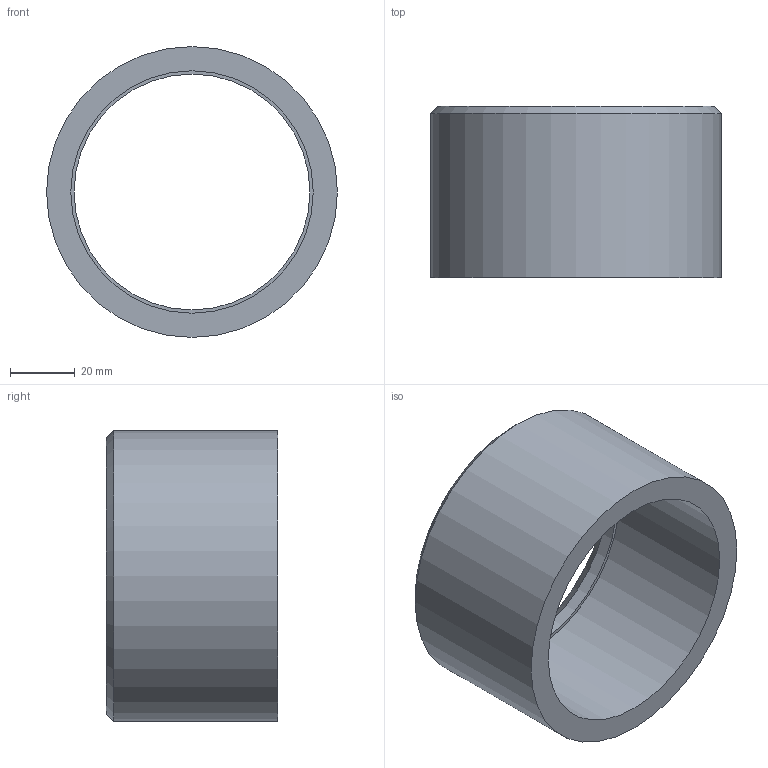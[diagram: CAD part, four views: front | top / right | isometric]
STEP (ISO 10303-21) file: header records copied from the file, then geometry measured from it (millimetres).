
FILE_DESCRIPTION(/* description */ ('PVC riduzione corta incollaggio metrica'),/* implementation_level */ '2;1');
FILE_NAME(/* name */ 'C:\Users\POLYPIPE\Desktop\DATASET INVENTOR\LIBRERIA EFFAST\RACCORDI 3DxWEB\RDR\3D_RDRRCD\3D_RDRRCD090H.stp',/* time_stamp */ '2018-01-19T15:32:42+01:00',/* author */ ('POLYPIPE'),/* organization */ ('Polypipe Italia s.r.l.'),/* preprocessor_version */ 'ST-DEVELOPER v16.1',/* originating_system */ 'Autodesk Inventor 2016',/* authorisation */ '');
FILE_SCHEMA (('CONFIG_CONTROL_DESIGN'));
Length unit declared in the file: millimetre
Products named in the file (1): 3D_RDRRCD
Bounding box: 90 x 53 x 90 mm (x, y, z)
Volume: 101571.6 mm3; surface area: 30767.7 mm2
Topology: 1 solids, 1 shells, 8 faces, 13 edges, 8 vertices
Faces by surface type: plane 3, cylinder 3, cone 2
Full cylindrical faces by diameter (mm): 73 x1, 75 x1, 90 x1
Entity records: 192 total; most frequent: DIRECTION 34, CARTESIAN_POINT 25, AXIS2_PLACEMENT_3D 17, EDGE_LOOP 16, ORIENTED_EDGE 16, FACE_BOUND 8, FACE_OUTER_BOUND 8, CIRCLE 8
